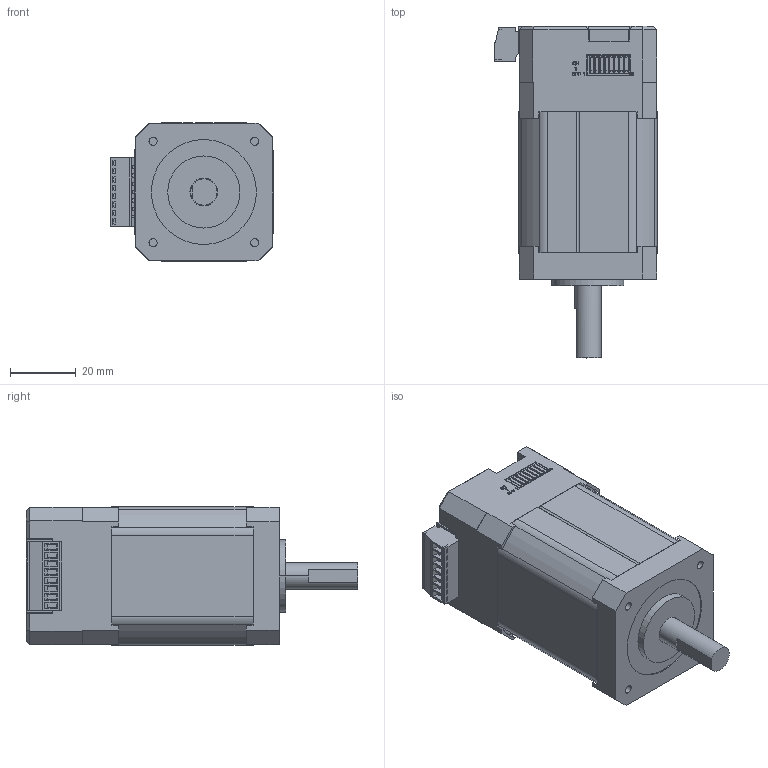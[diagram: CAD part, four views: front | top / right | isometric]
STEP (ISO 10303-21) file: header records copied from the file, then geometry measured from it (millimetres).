
FILE_DESCRIPTION((''),'2;1');
FILE_NAME('IT42AM08-D0824-24V-M','2024-09-24T15:33:22',('ruiwe'),(''),'CREO PARAMETRIC BY PTC INC, 2021063','CREO PARAMETRIC BY PTC INC, 2021063','');
FILE_SCHEMA(('CONFIG_CONTROL_DESIGN','SHAPE_APPEARANCE_LAYERS_GROUPS'));
Products named in the file (1): IT42AM08-D0824-24V-M
Bounding box: 49.45 x 101.2 x 42.2 mm (x, y, z)
Volume: 85844.6 mm3; surface area: 46024.4 mm2
Topology: 4 solids, 157 shells, 1931 faces, 6705 edges, 4957 vertices
Faces by surface type: plane 1361, cylinder 413, torus 56, bspline 38, cone 34, sphere 29
Entity records: 94112 total; most frequent: CARTESIAN_POINT 19574, ORIENTED_EDGE 11508, DIRECTION 10652, EDGE_CURVE 6705, VERTEX_POINT 4957, VECTOR 4944, LINE 4944, PRESENTATION_STYLE_ASSIGNMENT 3621
